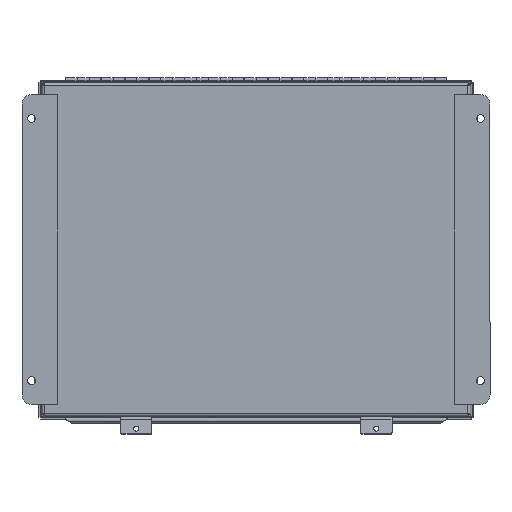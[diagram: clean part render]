
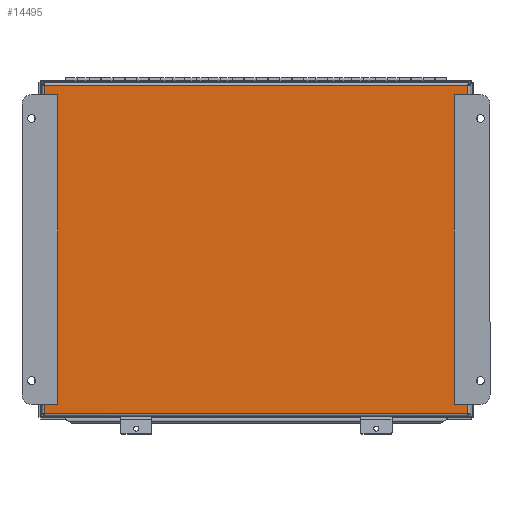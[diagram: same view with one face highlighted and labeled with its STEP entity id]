
A CAD part, front view. The second image highlights one B-rep face of the part: STEP entity #14495.
In plain terms, the highlighted planar face has unit normal (0, -1, 0).
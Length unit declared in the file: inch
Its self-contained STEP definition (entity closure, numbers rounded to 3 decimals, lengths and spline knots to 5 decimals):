
#5 = VERTEX_POINT ( 'NONE', #8660 ) ;
#434 = EDGE_CURVE ( 'NONE', #18539, #5, #12494, .T. ) ;
#1014 = VECTOR ( 'NONE', #15902, 39.37008 ) ;
#1310 = VERTEX_POINT ( 'NONE', #6933 ) ;
#1781 = LINE ( 'NONE', #9585, #1014 ) ;
#2029 = PLANE ( 'NONE',  #7719 ) ;
#2489 = LINE ( 'NONE', #16890, #19478 ) ;
#3698 = ORIENTED_EDGE ( 'NONE', *, *, #8439, .T. ) ;
#4551 = ORIENTED_EDGE ( 'NONE', *, *, #434, .T. ) ;
#6685 = CARTESIAN_POINT ( 'NONE',  ( 18., -0.0598, 0. ) ) ;
#6933 = CARTESIAN_POINT ( 'NONE',  ( 0.1198, -0.0598, -0.1198 ) ) ;
#7470 = VECTOR ( 'NONE', #11118, 39.37008 ) ;
#7719 = AXIS2_PLACEMENT_3D ( 'NONE', #6685, #11765, #8304 ) ;
#7804 = CARTESIAN_POINT ( 'NONE',  ( 0.1198, -0.0598, -13.8802 ) ) ;
#8304 = DIRECTION ( 'NONE',  ( 0., 0., 1. ) ) ;
#8382 = DIRECTION ( 'NONE',  ( 1., 0., 0. ) ) ;
#8439 = EDGE_CURVE ( 'NONE', #12786, #1310, #1781, .T. ) ;
#8660 = CARTESIAN_POINT ( 'NONE',  ( 17.8802, -0.0598, -13.8802 ) ) ;
#9176 = FACE_OUTER_BOUND ( 'NONE', #13338, .T. ) ;
#9585 = CARTESIAN_POINT ( 'NONE',  ( 17.91236, -0.0598, -0.1198 ) ) ;
#9677 = ORIENTED_EDGE ( 'NONE', *, *, #18699, .T. ) ;
#9872 = CARTESIAN_POINT ( 'NONE',  ( 17.8802, -0.0598, -0.1198 ) ) ;
#10984 = VECTOR ( 'NONE', #8382, 39.37008 ) ;
#11118 = DIRECTION ( 'NONE',  ( 0., 0., 1. ) ) ;
#11367 = ORIENTED_EDGE ( 'NONE', *, *, #18536, .T. ) ;
#11765 = DIRECTION ( 'NONE',  ( 0., 1., 0. ) ) ;
#11766 = LINE ( 'NONE', #19087, #7470 ) ;
#12055 = DIRECTION ( 'NONE',  ( 0., 0., -1. ) ) ;
#12494 = LINE ( 'NONE', #13315, #10984 ) ;
#12786 = VERTEX_POINT ( 'NONE', #9872 ) ;
#13315 = CARTESIAN_POINT ( 'NONE',  ( 0.08764, -0.0598, -13.8802 ) ) ;
#13338 = EDGE_LOOP ( 'NONE', ( #4551, #11367, #3698, #9677 ) ) ;
#14495 = ADVANCED_FACE ( 'NONE', ( #9176 ), #2029, .F. ) ;
#15902 = DIRECTION ( 'NONE',  ( -1., 0., 0. ) ) ;
#16890 = CARTESIAN_POINT ( 'NONE',  ( 0.1198, -0.0598, -0.08764 ) ) ;
#18536 = EDGE_CURVE ( 'NONE', #5, #12786, #11766, .T. ) ;
#18539 = VERTEX_POINT ( 'NONE', #7804 ) ;
#18699 = EDGE_CURVE ( 'NONE', #1310, #18539, #2489, .T. ) ;
#19087 = CARTESIAN_POINT ( 'NONE',  ( 17.8802, -0.0598, -13.91236 ) ) ;
#19478 = VECTOR ( 'NONE', #12055, 39.37008 ) ;
